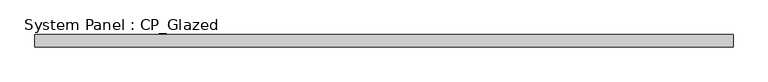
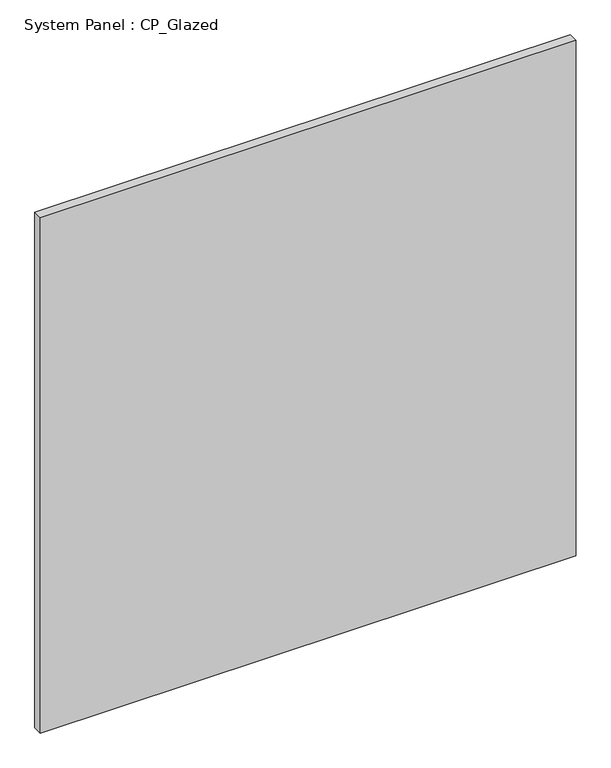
"""IFC4 building model written with IfcOpenShell, lengths in millimetres: plate geometry, System Panel : CP_Glazed."""

from ifc_helpers import new_model, si_unit, origin, origin_with_axes, place, context, project, spatial, polyline, outline, extrude, source, transform, mapped, element, save


def system_panel_cp_glazed_8f6ac1e8(model_context):
    return source(origin(), model_context, "Body", "SweptSolid", [
        extrude(outline(polyline([(727.5285714, 19.05), (-727.5285714, 19.05), (-727.5285714, 44.45), (727.5285714, 44.45), (727.5285714, 19.05)])), origin_with_axes(), (0.0, 0.0, 1.0), 1479.55),
    ])


if __name__ == "__main__":
    model = new_model("IFC4")
    model_context = context("Model", 3, world=origin())
    ifc_project = project(units=[si_unit("LENGTHUNIT", "METRE", prefix="MILLI")], contexts=[model_context])
    site = spatial("IfcSite", under=ifc_project)
    building = spatial("IfcBuilding", under=site)
    placement = place(None, origin())
    system_panel_cp_glazed_shape = system_panel_cp_glazed_8f6ac1e8(model_context)
    element("IfcPlate", 1, ObjectType="System Panel : CP_Glazed", at=placement, inside=building, context=model_context, shape_type="MappedRepresentation", body=[
        mapped(system_panel_cp_glazed_shape, transform((0.0, 0.0, 0.0), x_axis=(1.0, 0.0, 0.0), y_axis=(0.0, 1.0, 0.0), z_axis=(0.0, 0.0, 1.0))),
    ])
    save(model, "model.ifc")
